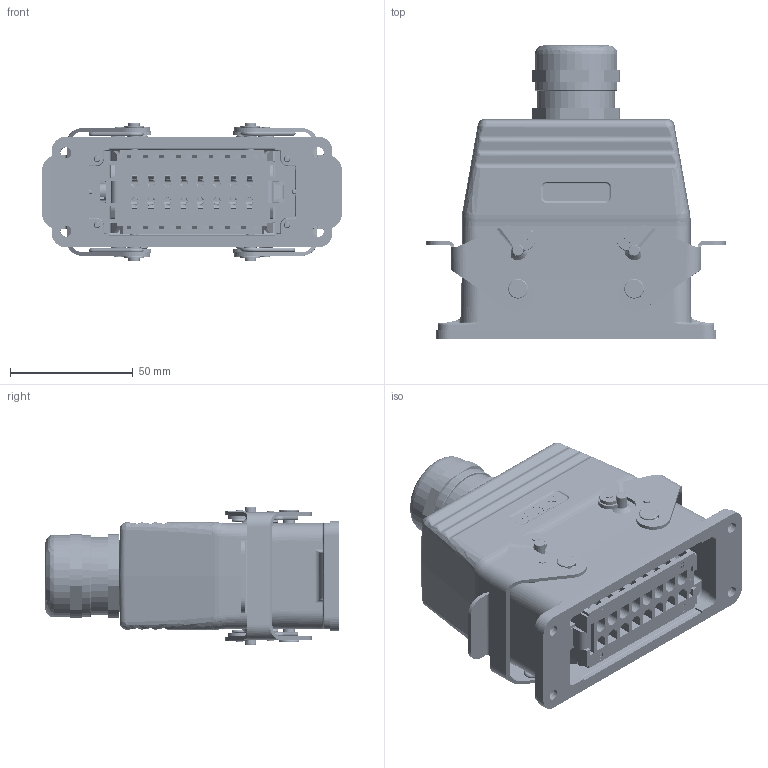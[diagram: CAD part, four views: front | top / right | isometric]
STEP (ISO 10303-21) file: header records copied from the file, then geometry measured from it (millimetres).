
FILE_DESCRIPTION (( 'STEP AP214' ), '1' );
FILE_NAME ('09016102125P HE、16针、开孔底座、顶出25套件、配塑料接头.STEP', '2024-04-28T01:34:52', ( 'L' ), ( '' ), 'SwSTEP 2.0', 'SolidWorks 2019', '' );
FILE_SCHEMA (( 'AUTOMOTIVE_DESIGN' ));
Length unit declared in the file: millimetre
Products named in the file (6): HE-016-F.stp; FAS-25-P.step; H16B-AG.step; H16B-TG-M25.step; HE-016-M.stp; 09016102125P HE、16针、开孔底座、顶出25套件、配塑料接头
Assembly tree (5 placements, depth 2):
  09016102125P HE、16针、开孔底座、顶出25套件、配塑料接头
    H16B-AG.step
    HE-016-M.stp
    HE-016-F.stp
    H16B-TG-M25.step
    FAS-25-P.step
Bounding box: 122.31 x 119.7 x 56.4 mm (x, y, z)
Volume: 215290.5 mm3; surface area: 132649.4 mm2
Topology: 5 solids, 17 shells, 7607 faces, 20720 edges, 13152 vertices
Faces by surface type: plane 3401, bspline 1433, cylinder 1300, cone 1021, torus 400, sphere 52
Entity records: 317524 total; most frequent: CARTESIAN_POINT 119475, ORIENTED_EDGE 40960, DIRECTION 31709, EDGE_CURVE 20480, VERTEX_POINT 13120, AXIS2_PLACEMENT_3D 10818, LINE 10073, VECTOR 10073
